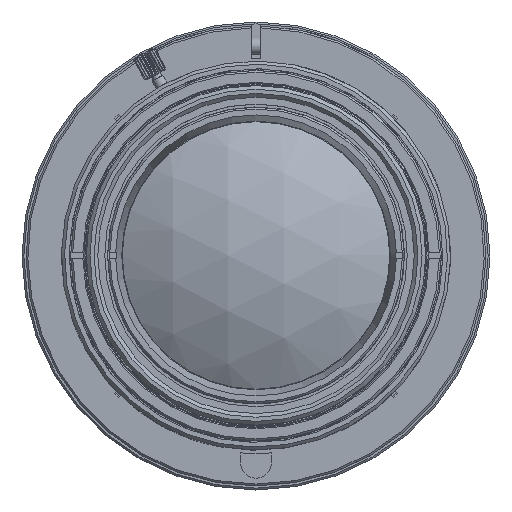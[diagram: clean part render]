
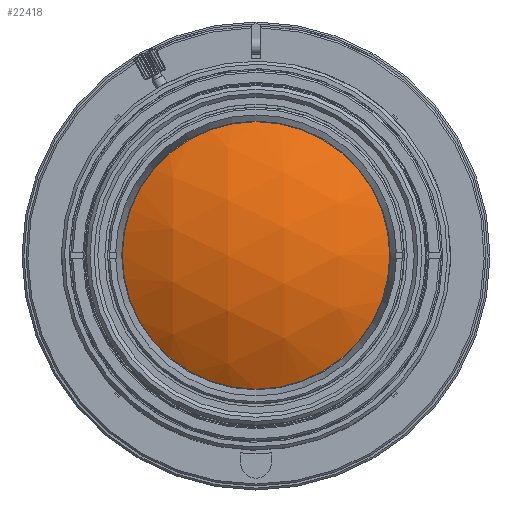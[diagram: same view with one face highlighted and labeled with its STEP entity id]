
A CAD part, top view. The second image highlights one B-rep face of the part: STEP entity #22418.
In plain terms, the highlighted spherical face has radius 40.65 mm.
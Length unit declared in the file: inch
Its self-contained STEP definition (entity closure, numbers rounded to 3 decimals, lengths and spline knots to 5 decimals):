
#1505 = DIRECTION ( 'NONE',  ( -1., 0., 0. ) ) ;
#3711 = AXIS2_PLACEMENT_3D ( 'NONE', #35538, #18554, #1505 ) ;
#4151 = DIRECTION ( 'NONE',  ( 0., 1., 0. ) ) ;
#6135 = AXIS2_PLACEMENT_3D ( 'NONE', #12729, #15612, #4151 ) ;
#6980 = FACE_OUTER_BOUND ( 'NONE', #29254, .T. ) ;
#9875 = CIRCLE ( 'NONE', #3711, 0.85296 ) ;
#10634 = VERTEX_POINT ( 'NONE', #14504 ) ;
#12729 = CARTESIAN_POINT ( 'NONE',  ( 0., 0., -0.40709 ) ) ;
#14504 = CARTESIAN_POINT ( 'NONE',  ( -0.85296, 0., 0.94706 ) ) ;
#15612 = DIRECTION ( 'NONE',  ( -1., 0., 0. ) ) ;
#18554 = DIRECTION ( 'NONE',  ( 0., 0., -1. ) ) ;
#22418 = ADVANCED_FACE ( 'NONE', ( #6980 ), #28333, .T. ) ;
#27280 = ORIENTED_EDGE ( 'NONE', *, *, #33338, .F. ) ;
#28333 = SPHERICAL_SURFACE ( 'NONE', #6135, 1.60039 ) ;
#29254 = EDGE_LOOP ( 'NONE', ( #27280 ) ) ;
#33338 = EDGE_CURVE ( 'NONE', #10634, #10634, #9875, .T. ) ;
#35538 = CARTESIAN_POINT ( 'NONE',  ( 0., 0., 0.94706 ) ) ;
